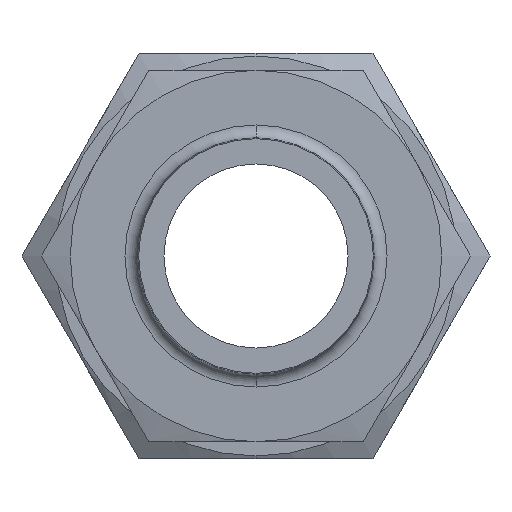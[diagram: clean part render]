
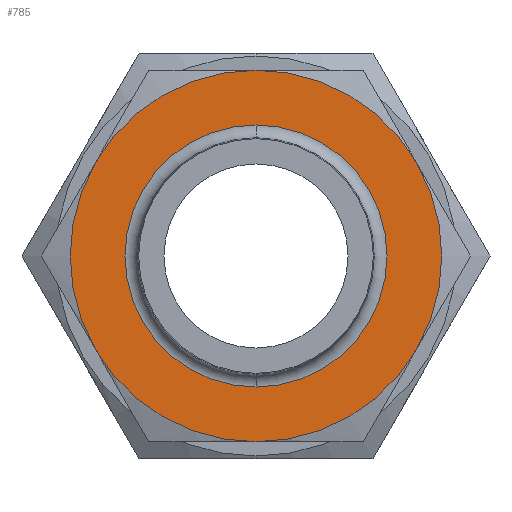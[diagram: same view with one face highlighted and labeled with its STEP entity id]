
A CAD part, left-side view. The second image highlights one B-rep face of the part: STEP entity #785.
In plain terms, the highlighted planar face has unit normal (-1, 0, 0).
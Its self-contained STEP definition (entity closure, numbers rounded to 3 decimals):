
#168 = EDGE_CURVE ( 'NONE', #225, #237, #964, .T. ) ;
#225 = VERTEX_POINT ( 'NONE', #945 ) ;
#237 = VERTEX_POINT ( 'NONE', #754 ) ;
#272 = VERTEX_POINT ( 'NONE', #1090 ) ;
#278 = VERTEX_POINT ( 'NONE', #1199 ) ;
#420 = VERTEX_POINT ( 'NONE', #1394 ) ;
#438 = VERTEX_POINT ( 'NONE', #1474 ) ;
#528 = VERTEX_POINT ( 'NONE', #1591 ) ;
#555 = EDGE_CURVE ( 'NONE', #420, #272, #1651, .T. ) ;
#556 = ORIENTED_EDGE ( 'NONE', *, *, #557, .F. ) ;
#557 = EDGE_CURVE ( 'NONE', #438, #420, #1744, .T. ) ;
#558 = ORIENTED_EDGE ( 'NONE', *, *, #559, .T. ) ;
#559 = EDGE_CURVE ( 'NONE', #438, #528, #1739, .T. ) ;
#560 = ORIENTED_EDGE ( 'NONE', *, *, #561, .F. ) ;
#561 = EDGE_CURVE ( 'NONE', #609, #528, #1733, .T. ) ;
#609 = VERTEX_POINT ( 'NONE', #1300 ) ;
#754 = CARTESIAN_POINT ( 'NONE',  ( 0., 0., -12.315 ) ) ;
#785 = ADVANCED_FACE ( 'NONE', ( #1948, #1947 ), #1950, .F. ) ;
#786 = EDGE_LOOP ( 'NONE', ( #787, #789 ) ) ;
#787 = ORIENTED_EDGE ( 'NONE', *, *, #788, .T. ) ;
#788 = EDGE_CURVE ( 'NONE', #237, #225, #1855, .T. ) ;
#789 = ORIENTED_EDGE ( 'NONE', *, *, #168, .T. ) ;
#790 = EDGE_LOOP ( 'NONE', ( #791, #793, #795, #556, #558, #560 ) ) ;
#791 = ORIENTED_EDGE ( 'NONE', *, *, #792, .F. ) ;
#792 = EDGE_CURVE ( 'NONE', #278, #609, #1850, .T. ) ;
#793 = ORIENTED_EDGE ( 'NONE', *, *, #794, .F. ) ;
#794 = EDGE_CURVE ( 'NONE', #272, #278, #1845, .T. ) ;
#795 = ORIENTED_EDGE ( 'NONE', *, *, #555, .F. ) ;
#945 = CARTESIAN_POINT ( 'NONE',  ( 0., 0., 12.315 ) ) ;
#960 = DIRECTION ( 'NONE',  ( 0., 0., -1. ) ) ;
#961 = DIRECTION ( 'NONE',  ( 1., 0., 0. ) ) ;
#962 = CARTESIAN_POINT ( 'NONE',  ( 0., 0., 0. ) ) ;
#963 = AXIS2_PLACEMENT_3D ( 'NONE', #962, #961, #960 ) ;
#964 = CIRCLE ( 'NONE', #963, 12.315 ) ;
#1090 = CARTESIAN_POINT ( 'NONE',  ( 0., -15.125, -8.733 ) ) ;
#1199 = CARTESIAN_POINT ( 'NONE',  ( 0., 0., -17.465 ) ) ;
#1300 = CARTESIAN_POINT ( 'NONE',  ( 0., 15.125, -8.732 ) ) ;
#1394 = CARTESIAN_POINT ( 'NONE',  ( 0., -15.125, 8.732 ) ) ;
#1474 = CARTESIAN_POINT ( 'NONE',  ( 0., 0., 17.465 ) ) ;
#1591 = CARTESIAN_POINT ( 'NONE',  ( 0., 15.125, 8.733 ) ) ;
#1651 = CIRCLE ( 'NONE', #1748, 17.465 ) ;
#1729 = DIRECTION ( 'NONE',  ( 0., 0., -1. ) ) ;
#1730 = DIRECTION ( 'NONE',  ( 1., 0., 0. ) ) ;
#1731 = CARTESIAN_POINT ( 'NONE',  ( 0., 0., 0. ) ) ;
#1732 = AXIS2_PLACEMENT_3D ( 'NONE', #1731, #1730, #1729 ) ;
#1733 = CIRCLE ( 'NONE', #1732, 17.465 ) ;
#1735 = DIRECTION ( 'NONE',  ( 0., 0., 1. ) ) ;
#1736 = DIRECTION ( 'NONE',  ( -1., 0., 0. ) ) ;
#1737 = CARTESIAN_POINT ( 'NONE',  ( 0., 0., 0. ) ) ;
#1738 = AXIS2_PLACEMENT_3D ( 'NONE', #1737, #1736, #1735 ) ;
#1739 = CIRCLE ( 'NONE', #1738, 17.465 ) ;
#1740 = DIRECTION ( 'NONE',  ( 0., 0., -1. ) ) ;
#1741 = DIRECTION ( 'NONE',  ( 1., 0., 0. ) ) ;
#1742 = CARTESIAN_POINT ( 'NONE',  ( 0., 0., 0. ) ) ;
#1743 = AXIS2_PLACEMENT_3D ( 'NONE', #1742, #1741, #1740 ) ;
#1744 = CIRCLE ( 'NONE', #1743, 17.465 ) ;
#1745 = DIRECTION ( 'NONE',  ( 0., 0., -1. ) ) ;
#1746 = DIRECTION ( 'NONE',  ( 1., 0., 0. ) ) ;
#1747 = CARTESIAN_POINT ( 'NONE',  ( 0., 0., 0. ) ) ;
#1748 = AXIS2_PLACEMENT_3D ( 'NONE', #1747, #1746, #1745 ) ;
#1841 = DIRECTION ( 'NONE',  ( 0., 0., -1. ) ) ;
#1842 = DIRECTION ( 'NONE',  ( 1., 0., 0. ) ) ;
#1843 = CARTESIAN_POINT ( 'NONE',  ( 0., 0., 0. ) ) ;
#1844 = AXIS2_PLACEMENT_3D ( 'NONE', #1843, #1842, #1841 ) ;
#1845 = CIRCLE ( 'NONE', #1844, 17.465 ) ;
#1846 = DIRECTION ( 'NONE',  ( 0., 0., -1. ) ) ;
#1847 = DIRECTION ( 'NONE',  ( 1., 0., 0. ) ) ;
#1848 = CARTESIAN_POINT ( 'NONE',  ( 0., 0., 0. ) ) ;
#1849 = AXIS2_PLACEMENT_3D ( 'NONE', #1848, #1847, #1846 ) ;
#1850 = CIRCLE ( 'NONE', #1849, 17.465 ) ;
#1851 = DIRECTION ( 'NONE',  ( 0., 0., -1. ) ) ;
#1852 = DIRECTION ( 'NONE',  ( 1., 0., 0. ) ) ;
#1853 = CARTESIAN_POINT ( 'NONE',  ( 0., 0., 0. ) ) ;
#1854 = AXIS2_PLACEMENT_3D ( 'NONE', #1853, #1852, #1851 ) ;
#1855 = CIRCLE ( 'NONE', #1854, 12.315 ) ;
#1937 = DIRECTION ( 'NONE',  ( 0., 0., -1. ) ) ;
#1938 = DIRECTION ( 'NONE',  ( 1., 0., 0. ) ) ;
#1939 = CARTESIAN_POINT ( 'NONE',  ( 0., 20.167, 0. ) ) ;
#1946 = AXIS2_PLACEMENT_3D ( 'NONE', #1939, #1938, #1937 ) ;
#1947 = FACE_OUTER_BOUND ( 'NONE', #790, .T. ) ;
#1948 = FACE_BOUND ( 'NONE', #786, .T. ) ;
#1950 = PLANE ( 'NONE',  #1946 ) ;
